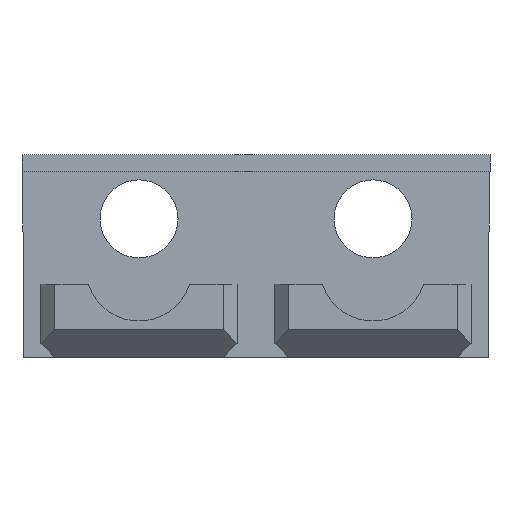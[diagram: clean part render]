
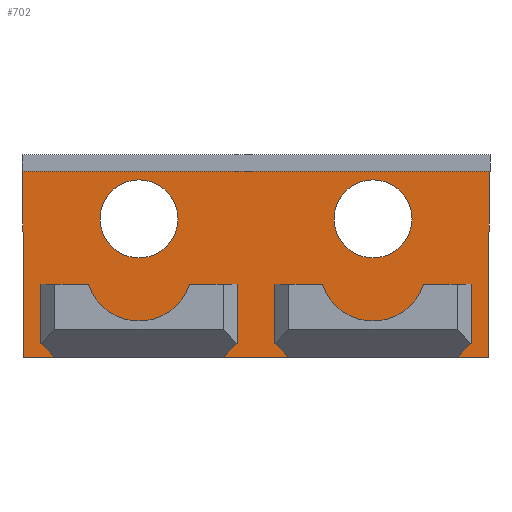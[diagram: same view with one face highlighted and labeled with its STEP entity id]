
A CAD part, left-side view. The second image highlights one B-rep face of the part: STEP entity #702.
In plain terms, the highlighted planar face has unit normal (-1, 0, 0).
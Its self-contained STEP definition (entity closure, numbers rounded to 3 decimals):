
#15=FACE_BOUND('',#99,.T.);
#16=FACE_BOUND('',#100,.T.);
#17=FACE_BOUND('',#101,.T.);
#18=FACE_BOUND('',#102,.T.);
#22=CIRCLE('',#739,7.);
#24=CIRCLE('',#745,9.5);
#26=CIRCLE('',#756,7.);
#27=CIRCLE('',#761,9.5);
#60=FACE_OUTER_BOUND('',#98,.T.);
#98=EDGE_LOOP('',(#567,#568,#569,#570,#571,#572));
#99=EDGE_LOOP('',(#573));
#100=EDGE_LOOP('',(#574));
#101=EDGE_LOOP('',(#575,#576,#577,#578,#579,#580));
#102=EDGE_LOOP('',(#581,#582,#583,#584,#585,#586));
#115=LINE('',#959,#203);
#130=LINE('',#989,#218);
#134=LINE('',#996,#222);
#135=LINE('',#999,#223);
#140=LINE('',#1008,#228);
#142=LINE('',#1011,#230);
#144=LINE('',#1021,#232);
#149=LINE('',#1031,#237);
#151=LINE('',#1035,#239);
#159=LINE('',#1054,#247);
#172=LINE('',#1080,#260);
#174=LINE('',#1090,#262);
#179=LINE('',#1100,#267);
#181=LINE('',#1104,#269);
#184=LINE('',#1110,#272);
#185=LINE('',#1113,#273);
#203=VECTOR('',#777,10.);
#218=VECTOR('',#802,10.);
#222=VECTOR('',#808,10.);
#223=VECTOR('',#811,10.);
#228=VECTOR('',#818,10.);
#230=VECTOR('',#822,10.);
#232=VECTOR('',#832,10.);
#237=VECTOR('',#839,10.);
#239=VECTOR('',#843,10.);
#247=VECTOR('',#859,10.);
#260=VECTOR('',#886,10.);
#262=VECTOR('',#896,10.);
#267=VECTOR('',#903,10.);
#269=VECTOR('',#907,10.);
#272=VECTOR('',#912,10.);
#273=VECTOR('',#915,10.);
#291=VERTEX_POINT('',#957);
#292=VERTEX_POINT('',#958);
#302=VERTEX_POINT('',#988);
#304=VERTEX_POINT('',#994);
#305=VERTEX_POINT('',#998);
#308=VERTEX_POINT('',#1006);
#310=VERTEX_POINT('',#1015);
#311=VERTEX_POINT('',#1019);
#312=VERTEX_POINT('',#1020);
#316=VERTEX_POINT('',#1030);
#317=VERTEX_POINT('',#1034);
#320=VERTEX_POINT('',#1041);
#322=VERTEX_POINT('',#1045);
#332=VERTEX_POINT('',#1084);
#333=VERTEX_POINT('',#1088);
#334=VERTEX_POINT('',#1089);
#338=VERTEX_POINT('',#1099);
#339=VERTEX_POINT('',#1103);
#341=VERTEX_POINT('',#1109);
#342=VERTEX_POINT('',#1111);
#353=EDGE_CURVE('',#291,#292,#115,.T.);
#368=EDGE_CURVE('',#302,#291,#130,.T.);
#372=EDGE_CURVE('',#292,#304,#134,.T.);
#373=EDGE_CURVE('',#305,#302,#135,.T.);
#378=EDGE_CURVE('',#304,#308,#140,.T.);
#380=EDGE_CURVE('',#305,#308,#142,.F.);
#383=EDGE_CURVE('',#310,#310,#22,.T.);
#384=EDGE_CURVE('',#311,#312,#144,.T.);
#389=EDGE_CURVE('',#316,#311,#149,.T.);
#391=EDGE_CURVE('',#317,#316,#151,.T.);
#397=EDGE_CURVE('',#320,#322,#24,.T.);
#401=EDGE_CURVE('',#322,#317,#159,.T.);
#414=EDGE_CURVE('',#312,#320,#172,.T.);
#417=EDGE_CURVE('',#332,#332,#26,.T.);
#418=EDGE_CURVE('',#333,#334,#174,.T.);
#423=EDGE_CURVE('',#338,#333,#179,.T.);
#425=EDGE_CURVE('',#339,#338,#181,.T.);
#428=EDGE_CURVE('',#334,#341,#184,.T.);
#429=EDGE_CURVE('',#341,#342,#27,.T.);
#430=EDGE_CURVE('',#342,#339,#185,.T.);
#567=ORIENTED_EDGE('',*,*,#368,.T.);
#568=ORIENTED_EDGE('',*,*,#353,.T.);
#569=ORIENTED_EDGE('',*,*,#372,.T.);
#570=ORIENTED_EDGE('',*,*,#378,.T.);
#571=ORIENTED_EDGE('',*,*,#380,.F.);
#572=ORIENTED_EDGE('',*,*,#373,.T.);
#573=ORIENTED_EDGE('',*,*,#417,.T.);
#574=ORIENTED_EDGE('',*,*,#383,.T.);
#575=ORIENTED_EDGE('',*,*,#389,.T.);
#576=ORIENTED_EDGE('',*,*,#384,.T.);
#577=ORIENTED_EDGE('',*,*,#414,.T.);
#578=ORIENTED_EDGE('',*,*,#397,.T.);
#579=ORIENTED_EDGE('',*,*,#401,.T.);
#580=ORIENTED_EDGE('',*,*,#391,.T.);
#581=ORIENTED_EDGE('',*,*,#423,.T.);
#582=ORIENTED_EDGE('',*,*,#418,.T.);
#583=ORIENTED_EDGE('',*,*,#428,.T.);
#584=ORIENTED_EDGE('',*,*,#429,.T.);
#585=ORIENTED_EDGE('',*,*,#430,.T.);
#586=ORIENTED_EDGE('',*,*,#425,.T.);
#665=PLANE('',#760);
#702=ADVANCED_FACE('',(#60,#15,#16,#17,#18),#665,.F.);
#739=AXIS2_PLACEMENT_3D('',#1017,#828,#829);
#745=AXIS2_PLACEMENT_3D('',#1047,#852,#853);
#756=AXIS2_PLACEMENT_3D('',#1086,#892,#893);
#760=AXIS2_PLACEMENT_3D('',#1108,#910,#911);
#761=AXIS2_PLACEMENT_3D('',#1112,#913,#914);
#777=DIRECTION('',(0.,1.,0.));
#802=DIRECTION('',(0.,-0.017,1.));
#808=DIRECTION('',(0.,-0.017,-1.));
#811=DIRECTION('',(0.,0.,1.));
#818=DIRECTION('',(0.,0.,-1.));
#822=DIRECTION('',(0.,-1.,0.));
#828=DIRECTION('center_axis',(1.,0.,0.));
#829=DIRECTION('ref_axis',(0.,1.,0.));
#832=DIRECTION('',(0.,0.,1.));
#839=DIRECTION('',(0.,1.,0.));
#843=DIRECTION('',(0.,0.,-1.));
#852=DIRECTION('center_axis',(-1.,0.,0.));
#853=DIRECTION('ref_axis',(0.,1.,0.));
#859=DIRECTION('',(0.,-1.,0.));
#886=DIRECTION('',(0.,-1.,0.));
#892=DIRECTION('center_axis',(1.,0.,0.));
#893=DIRECTION('ref_axis',(0.,1.,0.));
#896=DIRECTION('',(0.,0.,1.));
#903=DIRECTION('',(0.,1.,0.));
#907=DIRECTION('',(0.,0.,-1.));
#910=DIRECTION('center_axis',(1.,0.,0.));
#911=DIRECTION('ref_axis',(0.,1.,0.));
#912=DIRECTION('',(0.,-1.,0.));
#913=DIRECTION('center_axis',(-1.,0.,0.));
#914=DIRECTION('ref_axis',(0.,1.,0.));
#915=DIRECTION('',(0.,-1.,0.));
#957=CARTESIAN_POINT('',(96.15,-21.,-138.777));
#958=CARTESIAN_POINT('',(96.15,63.,-138.777));
#959=CARTESIAN_POINT('',(96.15,-21.,-138.777));
#988=CARTESIAN_POINT('',(96.15,-20.8,-150.76));
#989=CARTESIAN_POINT('',(96.15,-20.8,-150.76));
#994=CARTESIAN_POINT('',(96.15,62.8,-150.76));
#996=CARTESIAN_POINT('',(96.15,62.8,-150.76));
#998=CARTESIAN_POINT('',(96.15,-20.8,-172.15));
#999=CARTESIAN_POINT('',(96.15,-20.8,-153.851));
#1006=CARTESIAN_POINT('',(96.15,62.8,-172.15));
#1008=CARTESIAN_POINT('',(96.15,62.8,-166.033));
#1011=CARTESIAN_POINT('',(96.15,-10.4,-172.15));
#1015=CARTESIAN_POINT('',(96.15,35.,-147.298));
#1017=CARTESIAN_POINT('Origin',(96.15,42.,-147.298));
#1019=CARTESIAN_POINT('',(96.15,57.1,-172.15));
#1020=CARTESIAN_POINT('',(96.15,57.1,-159.));
#1021=CARTESIAN_POINT('',(96.15,57.1,-166.046));
#1030=CARTESIAN_POINT('',(96.15,26.9,-172.15));
#1031=CARTESIAN_POINT('',(96.15,42.,-172.15));
#1034=CARTESIAN_POINT('',(96.15,26.9,-159.));
#1035=CARTESIAN_POINT('',(96.15,26.9,-159.471));
#1041=CARTESIAN_POINT('',(96.15,51.062,-159.));
#1045=CARTESIAN_POINT('',(96.15,32.938,-159.));
#1047=CARTESIAN_POINT('Origin',(96.15,42.,-156.15));
#1054=CARTESIAN_POINT('',(96.15,42.,-159.));
#1080=CARTESIAN_POINT('',(96.15,42.,-159.));
#1084=CARTESIAN_POINT('',(96.15,-7.,-147.298));
#1086=CARTESIAN_POINT('Origin',(96.15,0.,-147.298));
#1088=CARTESIAN_POINT('',(96.15,15.1,-172.15));
#1089=CARTESIAN_POINT('',(96.15,15.1,-159.));
#1090=CARTESIAN_POINT('',(96.15,15.1,-166.046));
#1099=CARTESIAN_POINT('',(96.15,-15.1,-172.15));
#1100=CARTESIAN_POINT('',(96.15,0.,-172.15));
#1103=CARTESIAN_POINT('',(96.15,-15.1,-159.));
#1104=CARTESIAN_POINT('',(96.15,-15.1,-159.471));
#1108=CARTESIAN_POINT('Origin',(96.15,-15.3,-160.));
#1109=CARTESIAN_POINT('',(96.15,9.062,-159.));
#1110=CARTESIAN_POINT('',(96.15,0.,-159.));
#1111=CARTESIAN_POINT('',(96.15,-9.062,-159.));
#1112=CARTESIAN_POINT('Origin',(96.15,0.,-156.15));
#1113=CARTESIAN_POINT('',(96.15,0.,-159.));
